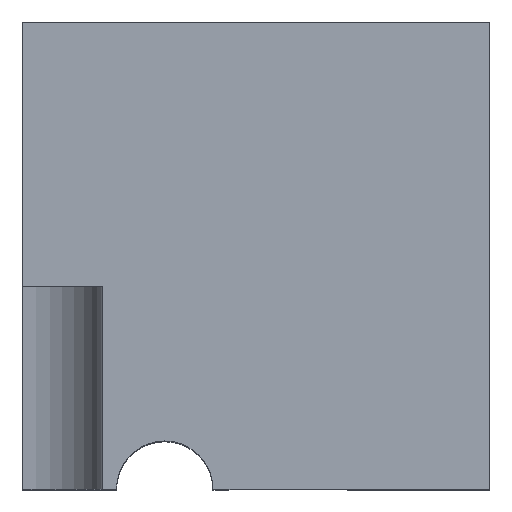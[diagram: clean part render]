
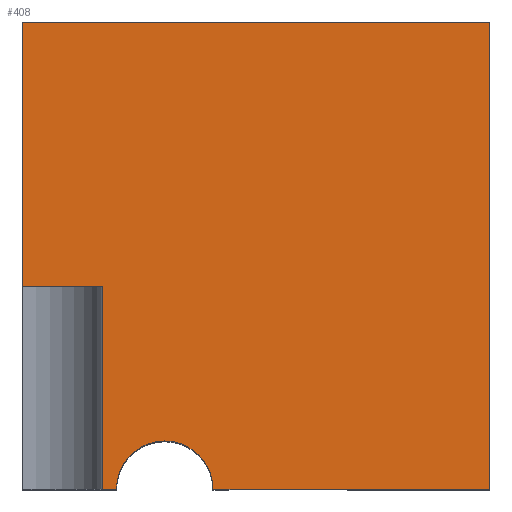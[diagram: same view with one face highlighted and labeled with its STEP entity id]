
A CAD part, top view. The second image highlights one B-rep face of the part: STEP entity #408.
In plain terms, the highlighted planar face has unit normal (0, 0, 1).
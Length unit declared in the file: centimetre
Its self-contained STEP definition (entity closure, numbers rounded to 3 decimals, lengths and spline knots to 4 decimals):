
#36 = AXIS2_PLACEMENT_3D ( 'NONE', #937, #417, #491 ) ;
#40 = DIRECTION ( 'NONE',  ( 1., 0., 0. ) ) ;
#42 = CARTESIAN_POINT ( 'NONE',  ( 407.8792, 0., 1000. ) ) ;
#49 = EDGE_CURVE ( 'NONE', #66, #799, #304, .T. ) ;
#52 = CARTESIAN_POINT ( 'NONE',  ( 0., 434.8808, 1000. ) ) ;
#66 = VERTEX_POINT ( 'NONE', #375 ) ;
#67 = EDGE_CURVE ( 'NONE', #66, #153, #925, .T. ) ;
#79 = VECTOR ( 'NONE', #552, 100. ) ;
#92 = ORIENTED_EDGE ( 'NONE', *, *, #272, .T. ) ;
#102 = VECTOR ( 'NONE', #40, 100. ) ;
#122 = DIRECTION ( 'NONE',  ( 1., 0., 0. ) ) ;
#140 = PLANE ( 'NONE',  #36 ) ;
#145 = CARTESIAN_POINT ( 'NONE',  ( 0., 434.8808, 1000. ) ) ;
#152 = VECTOR ( 'NONE', #743, 100. ) ;
#153 = VERTEX_POINT ( 'NONE', #846 ) ;
#157 = FACE_OUTER_BOUND ( 'NONE', #371, .T. ) ;
#184 = ORIENTED_EDGE ( 'NONE', *, *, #301, .T. ) ;
#191 = ORIENTED_EDGE ( 'NONE', *, *, #908, .T. ) ;
#206 = CIRCLE ( 'NONE', #262, 103.2146 ) ;
#262 = AXIS2_PLACEMENT_3D ( 'NONE', #1004, #919, #122 ) ;
#272 = EDGE_CURVE ( 'NONE', #706, #687, #503, .T. ) ;
#282 = VECTOR ( 'NONE', #587, 100. ) ;
#292 = CARTESIAN_POINT ( 'NONE',  ( 170.9359, 434.8808, 1000. ) ) ;
#301 = EDGE_CURVE ( 'NONE', #687, #600, #1126, .T. ) ;
#304 = LINE ( 'NONE', #1093, #102 ) ;
#335 = ORIENTED_EDGE ( 'NONE', *, *, #67, .F. ) ;
#371 = EDGE_LOOP ( 'NONE', ( #335, #885, #1053, #823, #191, #92, #184, #1133 ) ) ;
#375 = CARTESIAN_POINT ( 'NONE',  ( 170.9359, 0., 1000. ) ) ;
#400 = CARTESIAN_POINT ( 'NONE',  ( 0., 1000., 1000. ) ) ;
#408 = ADVANCED_FACE ( 'NONE', ( #157 ), #140, .T. ) ;
#417 = DIRECTION ( 'NONE',  ( 0., 0., 1. ) ) ;
#446 = VECTOR ( 'NONE', #567, 100. ) ;
#483 = LINE ( 'NONE', #145, #152 ) ;
#486 = CARTESIAN_POINT ( 'NONE',  ( 1000., 1000., 1000. ) ) ;
#491 = DIRECTION ( 'NONE',  ( 1., 0., 0. ) ) ;
#503 = LINE ( 'NONE', #863, #518 ) ;
#518 = VECTOR ( 'NONE', #842, 100. ) ;
#552 = DIRECTION ( 'NONE',  ( 0., 1., 0. ) ) ;
#556 = EDGE_CURVE ( 'NONE', #600, #153, #483, .T. ) ;
#567 = DIRECTION ( 'NONE',  ( 1., 0., 0. ) ) ;
#578 = LINE ( 'NONE', #486, #282 ) ;
#587 = DIRECTION ( 'NONE',  ( 0., 1., 0. ) ) ;
#600 = VERTEX_POINT ( 'NONE', #52 ) ;
#614 = VERTEX_POINT ( 'NONE', #755 ) ;
#651 = EDGE_CURVE ( 'NONE', #903, #614, #830, .T. ) ;
#660 = VECTOR ( 'NONE', #749, 100. ) ;
#666 = CARTESIAN_POINT ( 'NONE',  ( 1000., 1000., 1000. ) ) ;
#687 = VERTEX_POINT ( 'NONE', #1117 ) ;
#706 = VERTEX_POINT ( 'NONE', #666 ) ;
#728 = EDGE_CURVE ( 'NONE', #903, #799, #206, .T. ) ;
#735 = CARTESIAN_POINT ( 'NONE',  ( 0., 0., 1000. ) ) ;
#743 = DIRECTION ( 'NONE',  ( 1., 0., 0. ) ) ;
#749 = DIRECTION ( 'NONE',  ( 0., -1., 0. ) ) ;
#755 = CARTESIAN_POINT ( 'NONE',  ( 1000., 0., 1000. ) ) ;
#799 = VERTEX_POINT ( 'NONE', #944 ) ;
#823 = ORIENTED_EDGE ( 'NONE', *, *, #651, .T. ) ;
#830 = LINE ( 'NONE', #735, #446 ) ;
#842 = DIRECTION ( 'NONE',  ( -1., 0., 0. ) ) ;
#846 = CARTESIAN_POINT ( 'NONE',  ( 170.9359, 434.8808, 1000. ) ) ;
#863 = CARTESIAN_POINT ( 'NONE',  ( 0., 1000., 1000. ) ) ;
#885 = ORIENTED_EDGE ( 'NONE', *, *, #49, .T. ) ;
#903 = VERTEX_POINT ( 'NONE', #42 ) ;
#908 = EDGE_CURVE ( 'NONE', #614, #706, #578, .T. ) ;
#919 = DIRECTION ( 'NONE',  ( 0., 0., 1. ) ) ;
#925 = LINE ( 'NONE', #292, #79 ) ;
#937 = CARTESIAN_POINT ( 'NONE',  ( 0., 0., 1000. ) ) ;
#944 = CARTESIAN_POINT ( 'NONE',  ( 201.4499, 0., 1000. ) ) ;
#1004 = CARTESIAN_POINT ( 'NONE',  ( 304.6646, 0., 1000. ) ) ;
#1053 = ORIENTED_EDGE ( 'NONE', *, *, #728, .F. ) ;
#1093 = CARTESIAN_POINT ( 'NONE',  ( 0., 0., 1000. ) ) ;
#1117 = CARTESIAN_POINT ( 'NONE',  ( 0., 1000., 1000. ) ) ;
#1126 = LINE ( 'NONE', #400, #660 ) ;
#1133 = ORIENTED_EDGE ( 'NONE', *, *, #556, .T. ) ;
